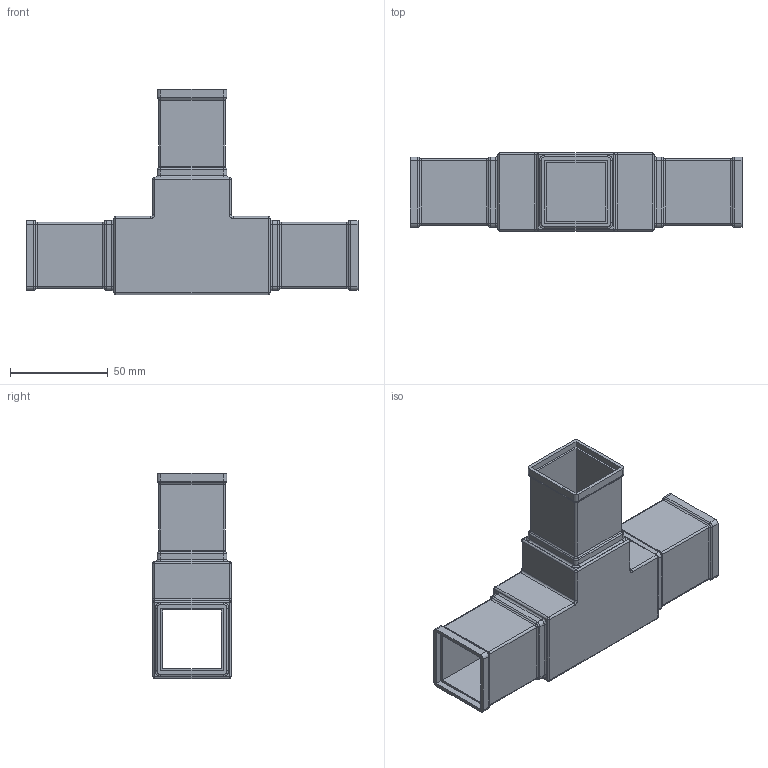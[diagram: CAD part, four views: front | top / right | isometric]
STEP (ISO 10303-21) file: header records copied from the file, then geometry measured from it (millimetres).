
FILE_DESCRIPTION (( 'STEP AP214' ), '1' );
FILE_NAME ('115.301.202.STEP', '2023-05-16T07:43:12', ( '' ), ( '' ), 'SwSTEP 2.0', 'SolidWorks 2021', '' );
FILE_SCHEMA (( 'AUTOMOTIVE_DESIGN' ));
Length unit declared in the file: millimetre
Products named in the file (1): 115.301.202
Bounding box: 170 x 40 x 105 mm (x, y, z)
Volume: 59190.3 mm3; surface area: 65515.3 mm2
Topology: 1 solids, 1 shells, 297 faces, 652 edges, 356 vertices
Faces by surface type: cylinder 120, plane 101, bspline 76
Entity records: 8774 total; most frequent: CARTESIAN_POINT 2514, DIRECTION 1332, ORIENTED_EDGE 1280, EDGE_CURVE 640, AXIS2_PLACEMENT_3D 486, LINE 360, VECTOR 360, VERTEX_POINT 356
